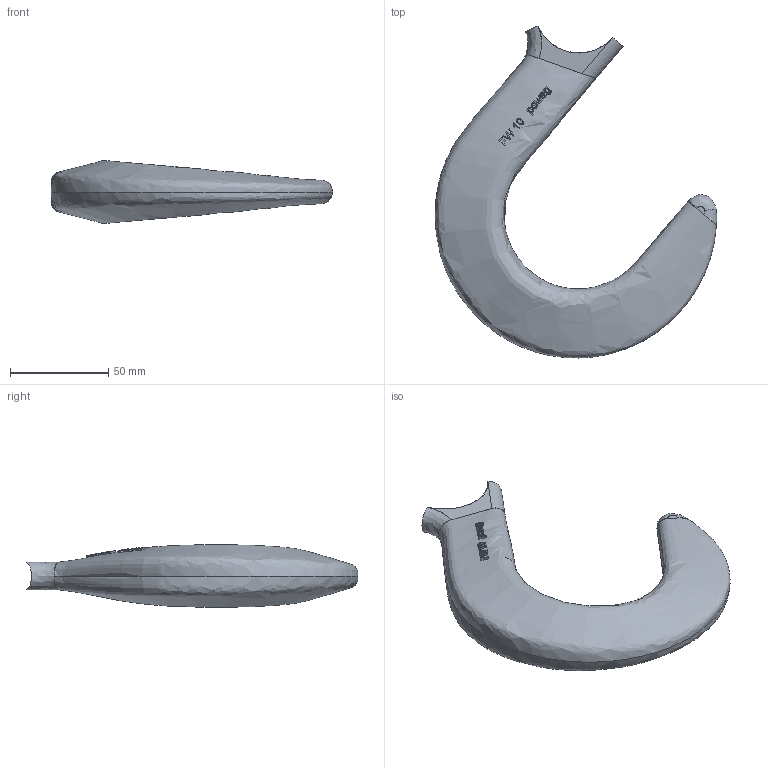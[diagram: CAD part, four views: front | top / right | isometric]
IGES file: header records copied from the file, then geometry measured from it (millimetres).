
Global section: file name: L:\users\SC\3D Kundenmodelle\UG Zg der Ableitung G100\FW Kundenmodell\FW 10 Kundenmodell\pewag_FW_10.igs; native system: NX V4.0; preprocessor: UGS NX IGES V4.0; date: 20100125.112834; units: millimetre
Bounding box: 142.91 x 168.73 x 31.76 mm (x, y, z)
Surface area: 28795.6 mm2 (no closed solid volume)
Topology: 0 solids, 0 shells, 166 faces, 964 edges, 963 vertices
Faces by surface type: bspline 157, offset 9
